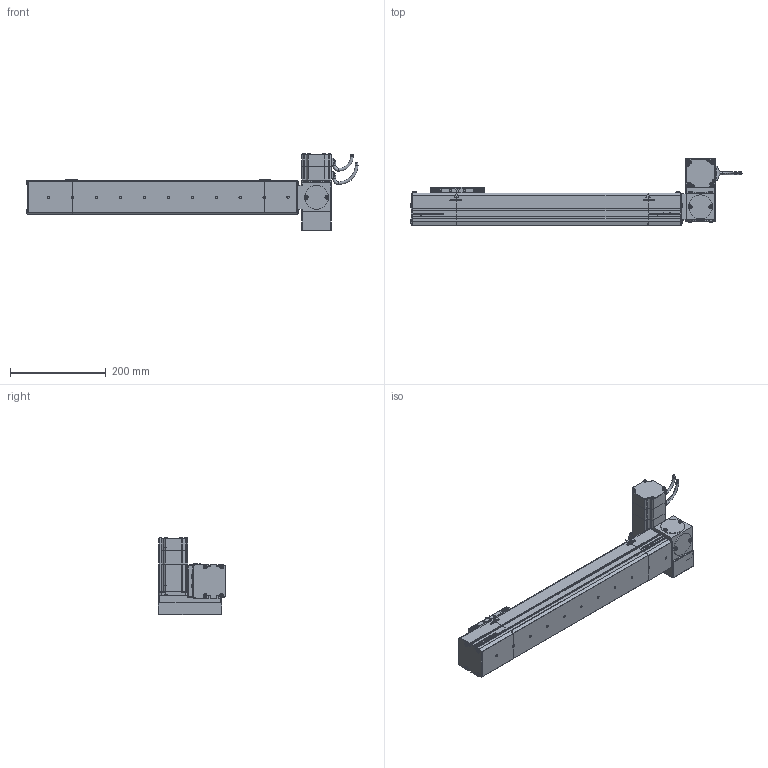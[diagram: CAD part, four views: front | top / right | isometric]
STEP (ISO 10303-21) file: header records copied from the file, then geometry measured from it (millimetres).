
FILE_DESCRIPTION (( 'STEP AP214' ), '1' );
FILE_NAME ('S07 CBN RT S400.STEP', '2010-06-29T09:27:09', ( 'Conseil Régional Haute-Normandie' ), ( 'Conseil Régional Haute-Normandie' ), 'SwSTEP 2.0', 'SolidWorks 2010', '' );
FILE_SCHEMA (( 'AUTOMOTIVE_DESIGN' ));
Length unit declared in the file: millimetre
Products named in the file (31): P4_Default; P1_Default; Corp S07 S400_Default; P2 90A_Default; P3 90A_Default; Axe 60BLDC_Default; Tail S07 Tail_Default; Couvercle S07 S400_Default; VisM3_Default; Conecteur2 60BLDC_Default; Conecteur 60BLDC_Default; Chariot S07_Default; vis M5 L15_Default; plaque de serrage Tail_Default; vis M5 L8_Default; support chariot_Default; chariot_Default; Plaque de bout Tail_Default; Couvercle Tail_Default; Corp Tail_Default; S07 CBN RT S400; Couvercle RT_Default; Corp RT_Default; Head RT_Default; Rondelle de Serrage RT_Default; plaque de serrage RT_Default; Plaque de bout RT_Default; 60BLDC90A-640_Default; Support Moteur RT_Default; Cache Support Moteur RT_Default
Assembly tree (71 placements, depth 4):
  S07 CBN RT S400
    Corp S07 S400_Default
      Couvercle S07 S400_Default
      Corp S07 S400_Default
    Tail S07 Tail_Default
      vis M5 L15_Default  x6
      Couvercle Tail_Default
      plaque de serrage Tail_Default
      Plaque de bout Tail_Default
      Corp Tail_Default
    Head RT_Default
      vis M5 L15_Default  x16
      60BLDC90A-640_Default
        VisM3_Default  x12
        Axe 60BLDC_Default
        P2 90A_Default
        P1_Default
        P3 90A_Default
        Conecteur 60BLDC_Default
        Conecteur2 60BLDC_Default
        P4_Default
      Rondelle de Serrage RT_Default  x3
      Cache Support Moteur RT_Default
      Corp RT_Default
      plaque de serrage RT_Default
      Couvercle RT_Default
      Support Moteur RT_Default
      Plaque de bout RT_Default
    Chariot S07_Default
      support chariot_Default
      vis M5 L8_Default  x8
      chariot_Default
Bounding box: 693.2 x 141 x 162 mm (x, y, z)
Volume: 3336233.7 mm3; surface area: 507748.3 mm2
Topology: 108 solids, 108 shells, 3874 faces, 9554 edges, 6148 vertices
Faces by surface type: plane 2244, bspline 756, cylinder 663, torus 112, cone 95, sphere 4
Entity records: 152873 total; most frequent: CARTESIAN_POINT 79513, ORIENTED_EDGE 14628, DIRECTION 10867, EDGE_CURVE 7314, VERTEX_POINT 4833, VECTOR 4761, LINE 4761, EDGE_LOOP 3125
